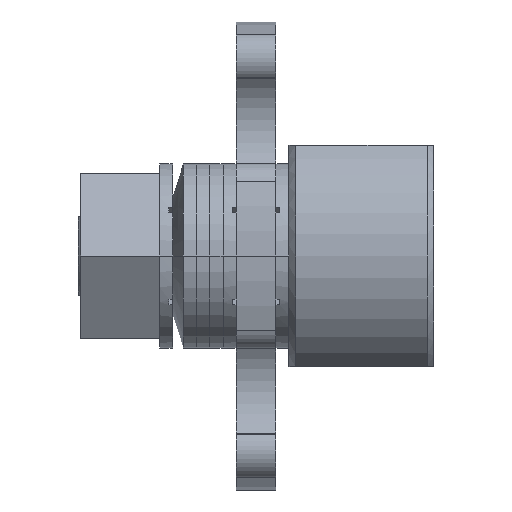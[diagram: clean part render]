
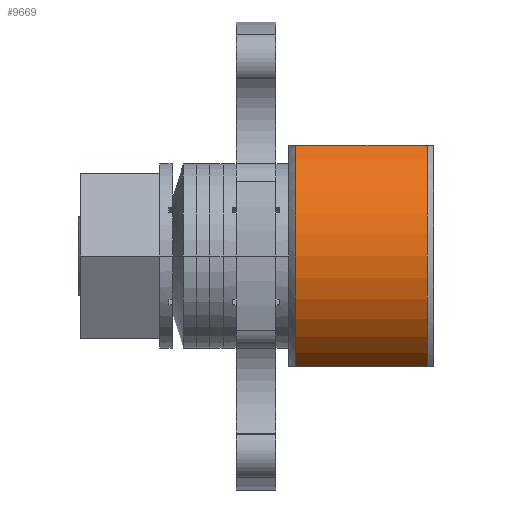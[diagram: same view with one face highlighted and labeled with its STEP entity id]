
A CAD part, left-side view. The second image highlights one B-rep face of the part: STEP entity #9669.
In plain terms, the highlighted cylindrical face has radius 10 mm (diameter 20 mm), a partial arc.
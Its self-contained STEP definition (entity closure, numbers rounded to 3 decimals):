
#192 = CARTESIAN_POINT ( 'NONE',  ( 10., 0., -8.842 ) ) ;
#346 = ORIENTED_EDGE ( 'NONE', *, *, #2465, .F. ) ;
#1223 = CIRCLE ( 'NONE', #9988, 10. ) ;
#1345 = VERTEX_POINT ( 'NONE', #1579 ) ;
#1579 = CARTESIAN_POINT ( 'NONE',  ( 4.574, 0.5, -0.442 ) ) ;
#1582 = VERTEX_POINT ( 'NONE', #15887 ) ;
#2465 = EDGE_CURVE ( 'NONE', #1345, #15360, #11857, .T. ) ;
#2489 = CARTESIAN_POINT ( 'NONE',  ( 4.574, 0.5, -17.242 ) ) ;
#2518 = VECTOR ( 'NONE', #7573, 1000. ) ;
#2881 = EDGE_CURVE ( 'NONE', #1582, #16159, #1223, .T. ) ;
#3945 = DIRECTION ( 'NONE',  ( -0.543, 0., 0.84 ) ) ;
#4695 = EDGE_CURVE ( 'NONE', #1345, #16159, #13703, .T. ) ;
#5150 = CARTESIAN_POINT ( 'NONE',  ( 4.574, 0.5, -0.442 ) ) ;
#5623 = DIRECTION ( 'NONE',  ( 1., 0., 0. ) ) ;
#5630 = ORIENTED_EDGE ( 'NONE', *, *, #4695, .T. ) ;
#6569 = ORIENTED_EDGE ( 'NONE', *, *, #7178, .F. ) ;
#7080 = CARTESIAN_POINT ( 'NONE',  ( 10., 10.5, -8.842 ) ) ;
#7112 = VECTOR ( 'NONE', #15140, 1000. ) ;
#7178 = EDGE_CURVE ( 'NONE', #15360, #1582, #8986, .T. ) ;
#7351 = AXIS2_PLACEMENT_3D ( 'NONE', #192, #12907, #5623 ) ;
#7517 = EDGE_LOOP ( 'NONE', ( #5630, #8855, #6569, #346 ) ) ;
#7573 = DIRECTION ( 'NONE',  ( 0., 1., 0. ) ) ;
#8855 = ORIENTED_EDGE ( 'NONE', *, *, #2881, .F. ) ;
#8986 = LINE ( 'NONE', #2489, #2518 ) ;
#9021 = CARTESIAN_POINT ( 'NONE',  ( 10., 0.5, -8.842 ) ) ;
#9669 = ADVANCED_FACE ( 'NONE', ( #15520 ), #11586, .T. ) ;
#9988 = AXIS2_PLACEMENT_3D ( 'NONE', #7080, #12133, #15980 ) ;
#11586 = CYLINDRICAL_SURFACE ( 'NONE', #7351, 10. ) ;
#11857 = CIRCLE ( 'NONE', #16408, 10. ) ;
#12133 = DIRECTION ( 'NONE',  ( 0., 1., 0. ) ) ;
#12907 = DIRECTION ( 'NONE',  ( 0., 1., 0. ) ) ;
#13480 = CARTESIAN_POINT ( 'NONE',  ( 4.574, 0.5, -17.242 ) ) ;
#13703 = LINE ( 'NONE', #5150, #7112 ) ;
#15140 = DIRECTION ( 'NONE',  ( 0., 1., 0. ) ) ;
#15360 = VERTEX_POINT ( 'NONE', #13480 ) ;
#15520 = FACE_OUTER_BOUND ( 'NONE', #7517, .T. ) ;
#15528 = DIRECTION ( 'NONE',  ( 0., -1., 0. ) ) ;
#15887 = CARTESIAN_POINT ( 'NONE',  ( 4.574, 10.5, -17.242 ) ) ;
#15980 = DIRECTION ( 'NONE',  ( -0.543, 0., -0.84 ) ) ;
#16159 = VERTEX_POINT ( 'NONE', #16410 ) ;
#16408 = AXIS2_PLACEMENT_3D ( 'NONE', #9021, #15528, #3945 ) ;
#16410 = CARTESIAN_POINT ( 'NONE',  ( 4.574, 10.5, -0.442 ) ) ;
